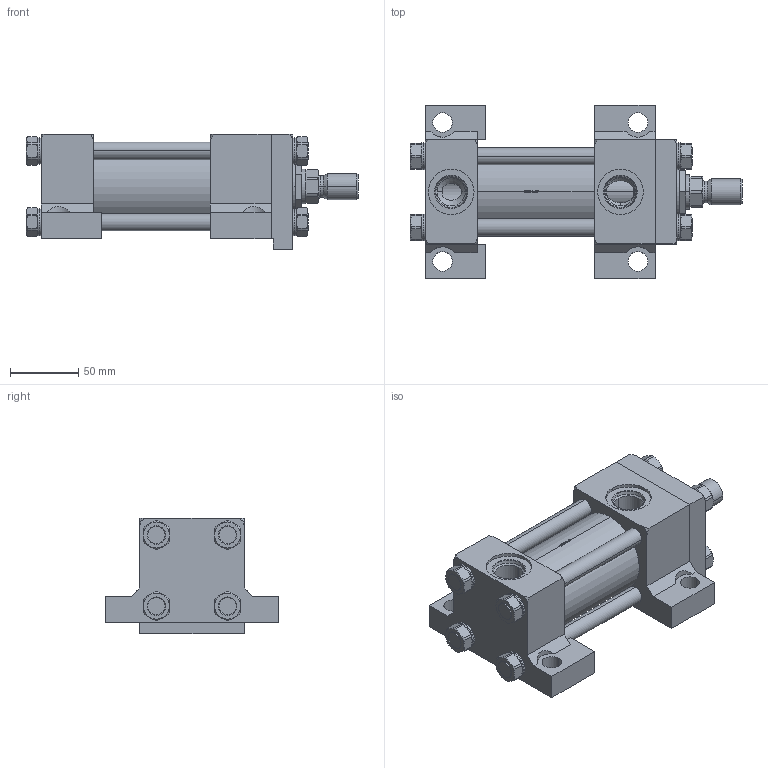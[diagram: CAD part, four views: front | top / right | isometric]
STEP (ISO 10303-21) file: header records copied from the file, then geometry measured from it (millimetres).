
FILE_DESCRIPTION (( 'STEP AP214' ), '1' );
FILE_NAME ('2.00CP2HHNAT114A2.000.step', '2026-03-26T21:16:34', ( '' ), ( '' ), 'SwSTEP 2.0', 'SolidWorks 2023', '' );
FILE_SCHEMA (( 'AUTOMOTIVE_DESIGN' ));
Length unit declared in the file: inch
Products named in the file (1): 2.00CP2HHNAT114A2.000
Bounding box: 242.89 x 127 x 84.14 mm (x, y, z)
Volume: 864461.6 mm3; surface area: 225753.6 mm2
Topology: 44 solids, 44 shells, 1210 faces, 3121 edges, 2007 vertices
Faces by surface type: plane 788, cylinder 220, cone 164, bspline 30, torus 8
Entity records: 54505 total; most frequent: CARTESIAN_POINT 10639, ORIENTED_EDGE 6242, DIRECTION 5115, EDGE_CURVE 3121, VERTEX_POINT 2007, AXIS2_PLACEMENT_3D 1735, LINE 1645, VECTOR 1645
